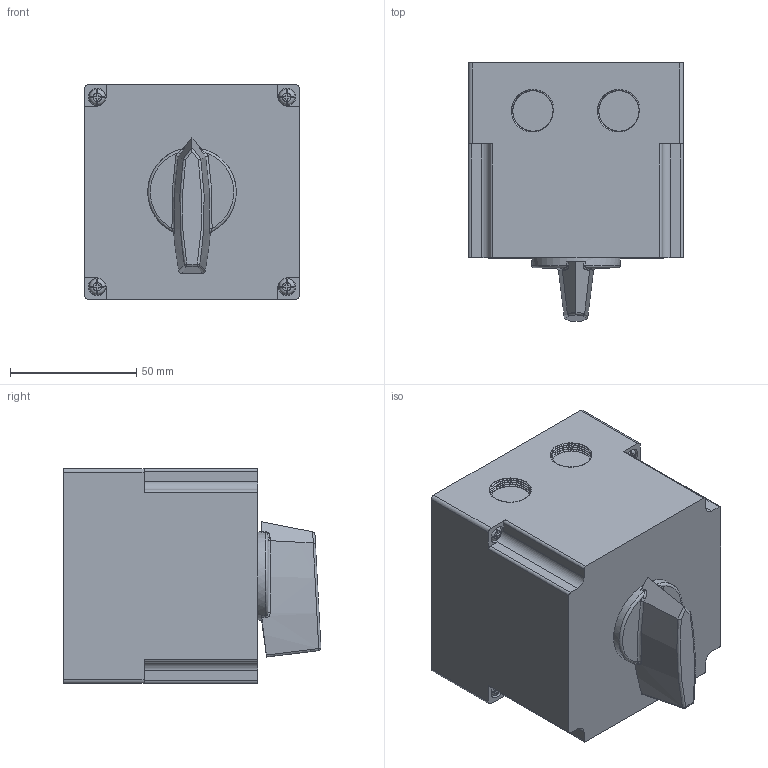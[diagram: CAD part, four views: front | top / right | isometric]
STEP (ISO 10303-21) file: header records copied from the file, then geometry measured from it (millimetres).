
FILE_DESCRIPTION(/* description */ (''),/* implementation_level */ '2;1');
FILE_NAME(/* name */ '4G16,25-PK_IP55_1_lub_2_korpusy.stp',/* time_stamp */ '2021-07-22T08:17:47+02:00',/* author */ (''),/* organization */ (''),/* preprocessor_version */ 'ST-DEVELOPER v18.1',/* originating_system */ 'SIEMENS PLM Software NX 1965',/* authorisation */ '');
FILE_SCHEMA (('AUTOMOTIVE_DESIGN { 1 0 10303 214 3 1 1 1 }'));
Length unit declared in the file: millimetre
Products named in the file (1): 4G16,25-PK_IP55_1_lub_2_korpusy_stp
Bounding box: 85 x 101.95 x 85 mm (x, y, z)
Volume: 553618.6 mm3; surface area: 45236.7 mm2
Topology: 1 solids, 5 shells, 256 faces, 695 edges, 452 vertices
Faces by surface type: plane 101, cylinder 99, bspline 39, cone 9, torus 6, sphere 2
Full cylindrical faces by diameter (mm): 2.9 x24, 3.5 x4, 4.3 x4, 7 x4, 16 x16, 35 x1
Entity records: 16135 total; most frequent: CARTESIAN_POINT 11303, ORIENTED_EDGE 1032, DIRECTION 871, EDGE_CURVE 516, VERTEX_POINT 352, AXIS2_PLACEMENT_3D 343, EDGE_LOOP 270, ADVANCED_FACE 220
